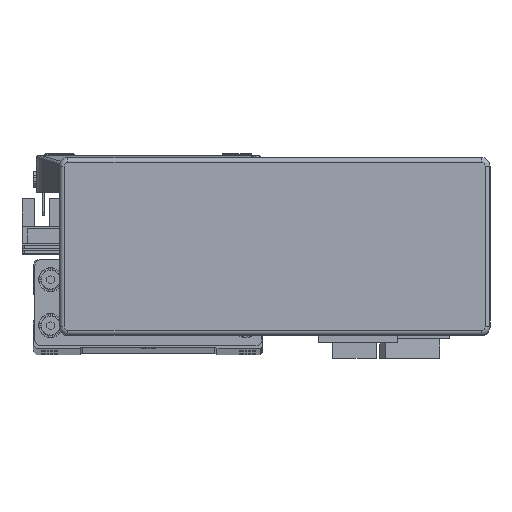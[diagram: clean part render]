
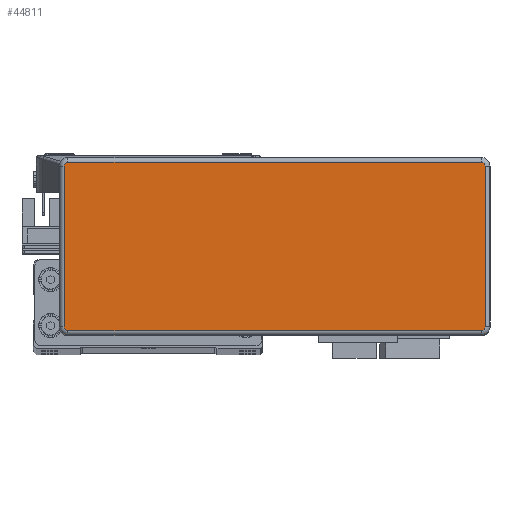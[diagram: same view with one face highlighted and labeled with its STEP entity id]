
A CAD part, top view. The second image highlights one B-rep face of the part: STEP entity #44811.
In plain terms, the highlighted planar face has unit normal (0, 0, 1) as drawn and (0, 0, -1) by its records, which use the part's own axes.
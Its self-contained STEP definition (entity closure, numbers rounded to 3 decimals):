
#7806 = CIRCLE ( 'NONE', #10087, 1.3 ) ;
#7812 = VECTOR ( 'NONE', #35261, 1000. ) ;
#7821 = VECTOR ( 'NONE', #35264, 1000. ) ;
#7824 = LINE ( 'NONE', #35212, #7846 ) ;
#7836 = LINE ( 'NONE', #35270, #7812 ) ;
#7838 = LINE ( 'NONE', #35242, #7821 ) ;
#7846 = VECTOR ( 'NONE', #35218, 1000. ) ;
#7868 = CIRCLE ( 'NONE', #10130, 1.3 ) ;
#7901 = CIRCLE ( 'NONE', #10102, 1.3 ) ;
#7904 = LINE ( 'NONE', #35446, #7907 ) ;
#7907 = VECTOR ( 'NONE', #35478, 1000. ) ;
#7921 = CIRCLE ( 'NONE', #10085, 1.3 ) ;
#9727 = EDGE_CURVE ( 'NONE', #24559, #24618, #7824, .T. ) ;
#9735 = EDGE_CURVE ( 'NONE', #24593, #24590, #7838, .T. ) ;
#9739 = EDGE_CURVE ( 'NONE', #24576, #24581, #7836, .T. ) ;
#9751 = EDGE_CURVE ( 'NONE', #24599, #24576, #7806, .T. ) ;
#9762 = EDGE_CURVE ( 'NONE', #24581, #24559, #7901, .T. ) ;
#9763 = EDGE_CURVE ( 'NONE', #24618, #24593, #7868, .T. ) ;
#9766 = EDGE_CURVE ( 'NONE', #24590, #24607, #7921, .T. ) ;
#9767 = EDGE_CURVE ( 'NONE', #24607, #24599, #7904, .T. ) ;
#10085 = AXIS2_PLACEMENT_3D ( 'NONE', #35501, #35480, #35461 ) ;
#10087 = AXIS2_PLACEMENT_3D ( 'NONE', #35355, #35320, #35401 ) ;
#10102 = AXIS2_PLACEMENT_3D ( 'NONE', #35384, #35393, #35399 ) ;
#10130 = AXIS2_PLACEMENT_3D ( 'NONE', #35349, #35353, #35423 ) ;
#11320 = CARTESIAN_POINT ( 'NONE',  ( -73.295, -27.995, -32.2 ) ) ;
#11325 = CARTESIAN_POINT ( 'NONE',  ( 73.295, 27.995, -32.2 ) ) ;
#11327 = CARTESIAN_POINT ( 'NONE',  ( 73.295, -27.995, -32.2 ) ) ;
#11358 = CARTESIAN_POINT ( 'NONE',  ( 71.995, -29.295, -32.2 ) ) ;
#11359 = CARTESIAN_POINT ( 'NONE',  ( -73.295, 27.995, -32.2 ) ) ;
#11396 = CARTESIAN_POINT ( 'NONE',  ( -71.995, -29.295, -32.2 ) ) ;
#11404 = CARTESIAN_POINT ( 'NONE',  ( 71.995, 29.295, -32.2 ) ) ;
#11407 = CARTESIAN_POINT ( 'NONE',  ( -71.995, 29.295, -32.2 ) ) ;
#16077 = EDGE_LOOP ( 'NONE', ( #25084, #25109, #39233, #39298, #39249, #39220, #39276, #39247 ) ) ;
#17142 = CARTESIAN_POINT ( 'NONE',  ( 71.995, -27.995, -32.2 ) ) ;
#17145 = DIRECTION ( 'NONE',  ( 1., 0., 0. ) ) ;
#17152 = DIRECTION ( 'NONE',  ( 0., 0., 1. ) ) ;
#17190 = PLANE ( 'NONE',  #37696 ) ;
#17979 = FACE_OUTER_BOUND ( 'NONE', #16077, .T. ) ;
#24559 = VERTEX_POINT ( 'NONE', #11358 ) ;
#24576 = VERTEX_POINT ( 'NONE', #11325 ) ;
#24581 = VERTEX_POINT ( 'NONE', #11327 ) ;
#24590 = VERTEX_POINT ( 'NONE', #11359 ) ;
#24593 = VERTEX_POINT ( 'NONE', #11320 ) ;
#24599 = VERTEX_POINT ( 'NONE', #11404 ) ;
#24607 = VERTEX_POINT ( 'NONE', #11407 ) ;
#24618 = VERTEX_POINT ( 'NONE', #11396 ) ;
#25084 = ORIENTED_EDGE ( 'NONE', *, *, #9739, .T. ) ;
#25109 = ORIENTED_EDGE ( 'NONE', *, *, #9762, .T. ) ;
#35212 = CARTESIAN_POINT ( 'NONE',  ( 71.995, -29.295, -32.2 ) ) ;
#35218 = DIRECTION ( 'NONE',  ( -1., 0., 0. ) ) ;
#35242 = CARTESIAN_POINT ( 'NONE',  ( -73.295, -27.995, -32.2 ) ) ;
#35261 = DIRECTION ( 'NONE',  ( 0., -1., 0. ) ) ;
#35264 = DIRECTION ( 'NONE',  ( 0., 1., 0. ) ) ;
#35270 = CARTESIAN_POINT ( 'NONE',  ( 73.295, -27.995, -32.2 ) ) ;
#35320 = DIRECTION ( 'NONE',  ( 0., 0., -1. ) ) ;
#35349 = CARTESIAN_POINT ( 'NONE',  ( -71.995, -27.995, -32.2 ) ) ;
#35353 = DIRECTION ( 'NONE',  ( 0., 0., -1. ) ) ;
#35355 = CARTESIAN_POINT ( 'NONE',  ( 71.995, 27.995, -32.2 ) ) ;
#35384 = CARTESIAN_POINT ( 'NONE',  ( 71.995, -27.995, -32.2 ) ) ;
#35393 = DIRECTION ( 'NONE',  ( 0., 0., -1. ) ) ;
#35399 = DIRECTION ( 'NONE',  ( 1., 0., 0. ) ) ;
#35401 = DIRECTION ( 'NONE',  ( 1., 0., 0. ) ) ;
#35423 = DIRECTION ( 'NONE',  ( 1., 0., 0. ) ) ;
#35446 = CARTESIAN_POINT ( 'NONE',  ( 71.995, 29.295, -32.2 ) ) ;
#35461 = DIRECTION ( 'NONE',  ( 1., 0., 0. ) ) ;
#35478 = DIRECTION ( 'NONE',  ( 1., 0., 0. ) ) ;
#35480 = DIRECTION ( 'NONE',  ( 0., 0., -1. ) ) ;
#35501 = CARTESIAN_POINT ( 'NONE',  ( -71.995, 27.995, -32.2 ) ) ;
#37696 = AXIS2_PLACEMENT_3D ( 'NONE', #17142, #17152, #17145 ) ;
#39220 = ORIENTED_EDGE ( 'NONE', *, *, #9766, .T. ) ;
#39233 = ORIENTED_EDGE ( 'NONE', *, *, #9727, .T. ) ;
#39247 = ORIENTED_EDGE ( 'NONE', *, *, #9751, .T. ) ;
#39249 = ORIENTED_EDGE ( 'NONE', *, *, #9735, .T. ) ;
#39276 = ORIENTED_EDGE ( 'NONE', *, *, #9767, .T. ) ;
#39298 = ORIENTED_EDGE ( 'NONE', *, *, #9763, .T. ) ;
#44811 = ADVANCED_FACE ( 'NONE', ( #17979 ), #17190, .F. ) ;
